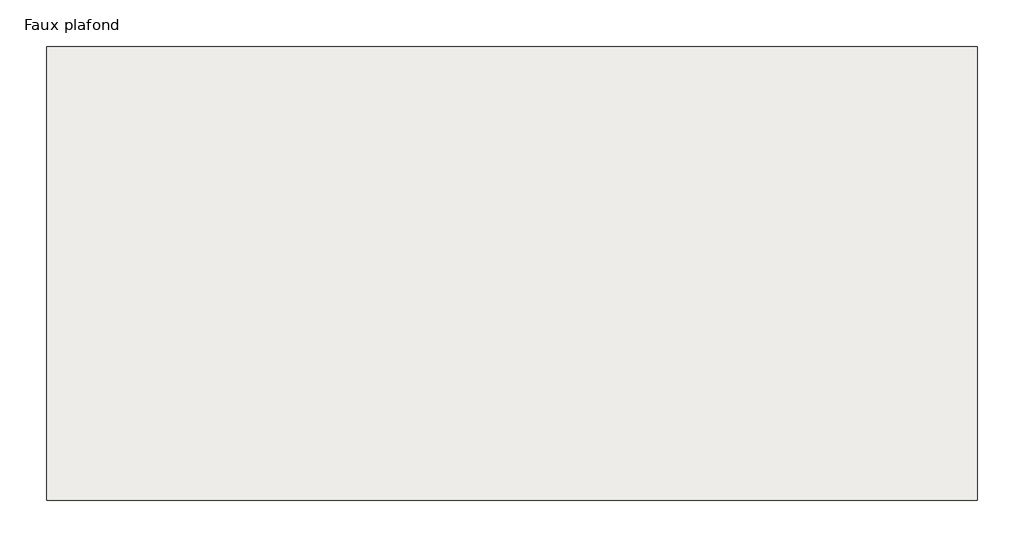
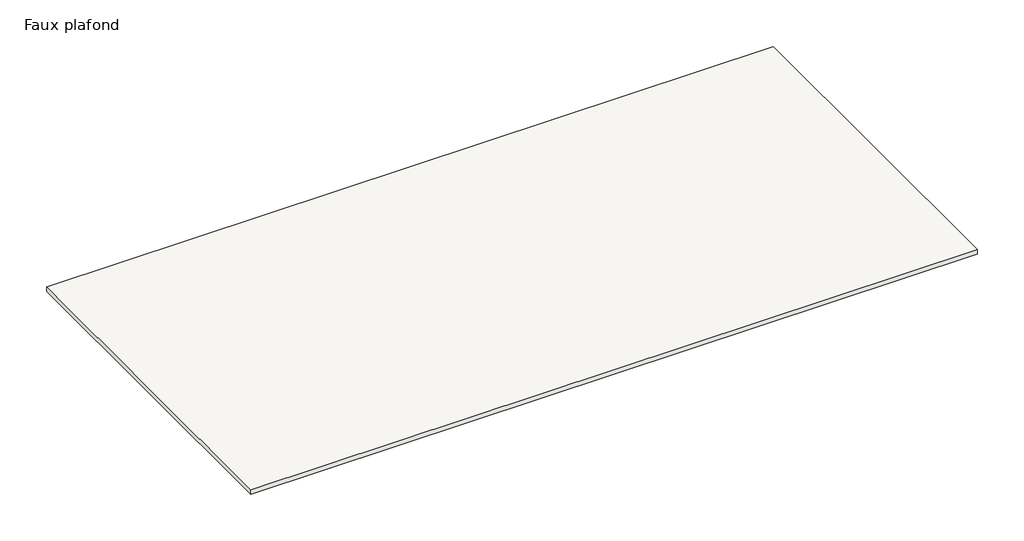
# One storey: 1 covering.
"""IFC4 building model written with IfcOpenShell, lengths in millimetres."""

import ifcopenshell
import ifcopenshell.guid

model = None  # the IFC model being written
_history = None  # IfcOwnerHistory: only IFC2X3 demands one
_inside = {}  # id of a spatial element -> (the spatial element, [elements in it])
_under = {}  # id of a project, library or spatial element -> (it, [spatial elements below it])
_declared = {}  # id of a project -> (the project, [libraries it declares])
_typed = {}  # id of a type object -> (the type object, [elements of that type])
_made_of = {}  # id of a material, layer set ... -> (it, [elements and type objects made of it])


def new_model(schema):
    """Start an empty IFC model of exactly this schema.

    Asked for "IFC4X3", IfcOpenShell would pick the latest addendum, in which some entities
    have other attributes; the version numbers below select the first issue.
    IFC2X3 requires an IfcOwnerHistory on every rooted entity: one is made here for all.
    """
    global model, _history
    if schema == "IFC4X3":
        model = ifcopenshell.file(schema_version=(4, 3, 0, 0))
    else:
        model = ifcopenshell.file(schema=schema)
    _inside.clear()
    _under.clear()
    _declared.clear()
    _typed.clear()
    _made_of.clear()
    _history = None
    if model.schema == "IFC2X3":
        org = make("IfcOrganization", Name="unknown")
        user = make(
            "IfcPersonAndOrganization",
            ThePerson=make("IfcPerson", FamilyName="unknown"),
            TheOrganization=org,
        )
        app = make(
            "IfcApplication",
            ApplicationDeveloper=org,
            Version="unknown",
            ApplicationFullName="unknown",
            ApplicationIdentifier="unknown",
        )
        _history = make(
            "IfcOwnerHistory",
            OwningUser=user,
            OwningApplication=app,
            ChangeAction="ADDED",
            CreationDate=0,
        )
    return model


def make(cls, **values):
    """One entity of the class cls with the attributes given. An attribute that is None is left unset."""
    return model.create_entity(
        cls, **{name: value for name, value in values.items() if value is not None}
    )


def rooted(cls, **values):
    """An entity with a GlobalId (a new one), such as an element, a storey or a relation."""
    return make(cls, GlobalId=ifcopenshell.guid.new(), OwnerHistory=_history, **values)


def si_unit(unit_type, name, prefix=None):
    """IfcSIUnit, for example si_unit("LENGTHUNIT", "METRE", prefix="MILLI")."""
    return make("IfcSIUnit", UnitType=unit_type, Prefix=prefix, Name=name)


def assignment(units):
    """IfcUnitAssignment: the units of a project."""
    return None if units is None else make("IfcUnitAssignment", Units=units)


def point(xyz):
    """IfcCartesianPoint."""
    return None if xyz is None else make("IfcCartesianPoint", Coordinates=xyz)


def direction(xyz):
    """IfcDirection."""
    return None if xyz is None else make("IfcDirection", DirectionRatios=xyz)


def frame(location, z_axis=None, x_axis=None):
    """IfcAxis2Placement3D, a coordinate frame: its origin and axes. An axis left out is left unset."""
    return make(
        "IfcAxis2Placement3D",
        Location=point(location),
        Axis=direction(z_axis),
        RefDirection=direction(x_axis),
    )


def origin():
    """The frame at (0, 0, 0) with its axes left unset."""
    return frame((0.0, 0.0, 0.0))


def place(relative_to, where):
    """IfcLocalPlacement: puts the frame where relative to a parent placement (None: the world)."""
    return make(
        "IfcLocalPlacement", PlacementRelTo=relative_to, RelativePlacement=where
    )


def context(
    kind, dimensions, precision=None, world=None, true_north=None, identifier=None
):
    """IfcGeometricRepresentationContext, for example the 3D "Model" context."""
    return make(
        "IfcGeometricRepresentationContext",
        ContextIdentifier=identifier,
        ContextType=kind,
        CoordinateSpaceDimension=dimensions,
        Precision=precision,
        WorldCoordinateSystem=world,
        TrueNorth=true_north,
    )


def project(units=None, contexts=None):
    """IfcProject with its units and contexts."""
    return rooted(
        "IfcProject",
        Name="project",
        RepresentationContexts=contexts,
        UnitsInContext=assignment(units),
    )


def spatial(cls, under=None, at=None, **own):
    """A site, building, storey or space (cls), placed at a placement, below another one or the project."""
    s = rooted(cls, ObjectPlacement=at, **own)
    if under is not None:
        _under.setdefault(under.id(), (under, []))[1].append(s)
    return s


def polyline(points):
    """IfcPolyline through the points."""
    return make("IfcPolyline", Points=[point(p) for p in points])


def outline(outer, holes=None, kind="AREA"):
    """IfcArbitraryClosedProfileDef: a profile drawn as a closed curve; with holes, ...WithVoids."""
    if holes is None:
        return make("IfcArbitraryClosedProfileDef", ProfileType=kind, OuterCurve=outer)
    return make(
        "IfcArbitraryProfileDefWithVoids",
        ProfileType=kind,
        OuterCurve=outer,
        InnerCurves=holes,
    )


def extrude(swept, where, along, depth):
    """IfcExtrudedAreaSolid: the profile swept, set in the frame where, extruded along a direction by depth."""
    return make(
        "IfcExtrudedAreaSolid",
        SweptArea=swept,
        Position=where,
        ExtrudedDirection=direction(along),
        Depth=depth,
    )


def shape(context_of_items, identifier, shape_type, items):
    """IfcShapeRepresentation: the items that make up one representation, for example the "Body"."""
    return make(
        "IfcShapeRepresentation",
        ContextOfItems=context_of_items,
        RepresentationIdentifier=identifier,
        RepresentationType=shape_type,
        Items=items,
    )


def made_of(thing, what):
    """Note that an element or type object is made of a material, layer set ...; save() writes the relation."""
    if what is not None:
        _made_of.setdefault(what.id(), (what, []))[1].append(thing)
    return thing


def element(
    cls,
    number,
    at=None,
    inside=None,
    cuts=None,
    type_object=None,
    material=None,
    context=None,
    identifier="Body",
    shape_type=None,
    held_by="IfcProductDefinitionShape",
    body=None,
    shapes=None,
    **own,
):
    """One element of the class cls, such as IfcWall. Its Tag is "e" and its number.

    at: its placement. inside: the storey or other place that contains it. cuts: it is an
    opening in that element (IfcRelVoidsElement). A single representation is given by context,
    identifier, shape_type and body (its items); several are given by shapes. held_by: the class
    of the entity that holds the representations. save() writes the other relations.
    """
    e = rooted(cls, Tag="e%d" % number, ObjectPlacement=at, **own)
    if body is not None:
        shapes = [shape(context, identifier, shape_type, body)]
    if shapes is not None:
        e.Representation = make(held_by, Representations=shapes)
    if inside is not None:
        _inside.setdefault(inside.id(), (inside, []))[1].append(e)
    if cuts is not None:
        rooted(
            "IfcRelVoidsElement", RelatingBuildingElement=cuts, RelatedOpeningElement=e
        )
    if type_object is not None:
        _typed.setdefault(type_object.id(), (type_object, []))[1].append(e)
    return made_of(e, material)


def aggregate(whole, parts):
    """IfcRelAggregates: a whole, such as a stair, and the parts it consists of."""
    return rooted("IfcRelAggregates", RelatingObject=whole, RelatedObjects=parts)


def save(model, path):
    """Write the relations noted so far, then the file.

    IfcRelAggregates (storeys below a building ...), IfcRelContainedInSpatialStructure (elements
    in a storey), IfcRelDefinesByType, IfcRelAssociatesMaterial and IfcRelDeclares: one each for
    every whole, place, type object, material and project.
    """
    for whole, parts in _under.values():
        aggregate(whole, parts)
    for where, things in _inside.values():
        rooted(
            "IfcRelContainedInSpatialStructure",
            RelatedElements=things,
            RelatingStructure=where,
        )
    for kind, things in _typed.values():
        rooted("IfcRelDefinesByType", RelatedObjects=things, RelatingType=kind)
    for what, things in _made_of.values():
        rooted("IfcRelAssociatesMaterial", RelatedObjects=things, RelatingMaterial=what)
    for by, libraries in _declared.values():
        rooted("IfcRelDeclares", RelatingContext=by, RelatedDefinitions=libraries)
    model.write(path)


model = new_model("IFC4")

# Units and contexts
model_context = context("Model", 3, world=origin())
ifc_project = project(units=[si_unit("LENGTHUNIT", "METRE", prefix="MILLI")], contexts=[model_context])

# Site, building, storey
site = spatial("IfcSite", under=ifc_project)
building = spatial("IfcBuilding", under=site)
storey = spatial("IfcBuildingStorey", under=building, Name="Faux plafond", Elevation=2500.0)

# Covering
placement = place(None, origin())
element("IfcCovering", 1, ObjectType="Quadrillage 600 x 1200 mm", at=placement, inside=storey, context=model_context, shape_type="SweptSolid", body=[
    extrude(outline(polyline([(2477.9561003, 5918.2951017), (2477.9561003, 2088.2951017), (-5382.0438997, 2088.2951017), (-5382.0438997, 5918.2951017), (2477.9561003, 5918.2951017)])), frame((0.0, 0.0, 2500.0), z_axis=(0.0, 0.0, 1.0), x_axis=(1.0, 0.0, 0.0)), (0.0, 0.0, 1.0), 52.0),
])

save(model, "model.ifc")
